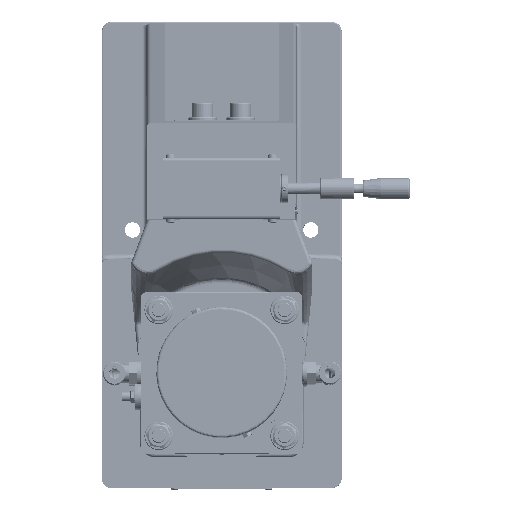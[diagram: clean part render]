
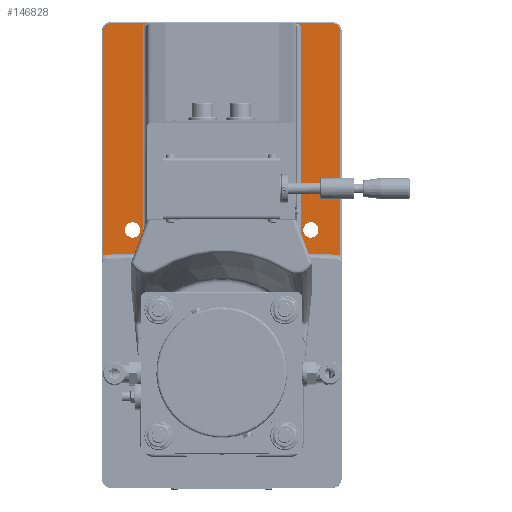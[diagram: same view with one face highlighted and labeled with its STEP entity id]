
A CAD part, top view. The second image highlights one B-rep face of the part: STEP entity #146828.
In plain terms, the highlighted planar face has unit normal (0, 0, 1).
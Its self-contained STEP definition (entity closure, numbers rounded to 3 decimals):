
#9077=LINE('',#214500,#23074);
#9208=LINE('',#215558,#23205);
#9209=LINE('',#215640,#23206);
#9211=LINE('',#215642,#23208);
#9213=LINE('',#215654,#23210);
#9230=LINE('',#215783,#23227);
#9231=LINE('',#215784,#23228);
#9232=LINE('',#215788,#23229);
#9233=LINE('',#215791,#23230);
#23074=VECTOR('',#171412,183.48);
#23205=VECTOR('',#172045,188.744);
#23206=VECTOR('',#172058,31.61);
#23208=VECTOR('',#172060,31.61);
#23210=VECTOR('',#172074,188.744);
#23227=VECTOR('',#172109,133.);
#23228=VECTOR('',#172110,183.48);
#23229=VECTOR('',#172113,96.075);
#23230=VECTOR('',#172116,96.075);
#31847=B_SPLINE_CURVE_WITH_KNOTS('',3,(#214372,#214373,#214374,#214375,
#214376,#214377,#214378,#214379),.UNSPECIFIED.,.F.,.F.,(4,2,2,4),(-0.001,
0.,0.358,0.52),.UNSPECIFIED.);
#31849=B_SPLINE_CURVE_WITH_KNOTS('',3,(#214434,#214435,#214436,#214437,
#214438,#214439,#214440,#214441,#214442,#214443),.UNSPECIFIED.,.F.,.F.,
(4,2,2,2,4),(0.,0.162,0.37,0.581,0.582),
 .UNSPECIFIED.);
#36168=FACE_BOUND('',#48579,.T.);
#36169=FACE_BOUND('',#48580,.T.);
#40415=FACE_OUTER_BOUND('',#48578,.T.);
#48578=EDGE_LOOP('',(#107331,#107332,#107333,#107334,#107335,#107336,#107337,
#107338,#107339,#107340,#107341,#107342,#107343,#107344,#107345,#107346));
#48579=EDGE_LOOP('',(#107347));
#48580=EDGE_LOOP('',(#107348));
#55125=CIRCLE('',#154723,7.);
#55129=CIRCLE('',#154729,7.);
#55132=CIRCLE('',#154735,9.);
#55137=CIRCLE('',#154742,9.);
#55138=CIRCLE('',#154743,9.);
#55139=CIRCLE('',#154744,6.5);
#55140=CIRCLE('',#154745,6.5);
#61801=VERTEX_POINT('',#214370);
#61802=VERTEX_POINT('',#214371);
#61806=VERTEX_POINT('',#214389);
#61808=VERTEX_POINT('',#214433);
#61809=VERTEX_POINT('',#214487);
#61936=VERTEX_POINT('',#215551);
#61939=VERTEX_POINT('',#215556);
#61942=VERTEX_POINT('',#215632);
#61944=VERTEX_POINT('',#215638);
#61946=VERTEX_POINT('',#215646);
#61948=VERTEX_POINT('',#215652);
#61962=VERTEX_POINT('',#215768);
#61967=VERTEX_POINT('',#215782);
#61968=VERTEX_POINT('',#215785);
#61969=VERTEX_POINT('',#215787);
#61970=VERTEX_POINT('',#215789);
#61971=VERTEX_POINT('',#215792);
#61972=VERTEX_POINT('',#215794);
#78228=EDGE_CURVE('',#61801,#61802,#31847,.T.);
#78241=EDGE_CURVE('',#61808,#61806,#31849,.F.);
#78245=EDGE_CURVE('',#61809,#61808,#9077,.T.);
#78505=EDGE_CURVE('',#61939,#61936,#9208,.T.);
#78509=EDGE_CURVE('',#61942,#61939,#55125,.T.);
#78512=EDGE_CURVE('',#61944,#61802,#9209,.T.);
#78514=EDGE_CURVE('',#61806,#61942,#9211,.T.);
#78517=EDGE_CURVE('',#61946,#61944,#55129,.T.);
#78520=EDGE_CURVE('',#61948,#61946,#9213,.T.);
#78537=EDGE_CURVE('',#61936,#61962,#55132,.T.);
#78544=EDGE_CURVE('',#61967,#61809,#9230,.T.);
#78545=EDGE_CURVE('',#61801,#61967,#9231,.T.);
#78546=EDGE_CURVE('',#61968,#61948,#55137,.T.);
#78547=EDGE_CURVE('',#61969,#61968,#9232,.T.);
#78548=EDGE_CURVE('',#61970,#61969,#55138,.T.);
#78549=EDGE_CURVE('',#61962,#61970,#9233,.T.);
#78550=EDGE_CURVE('',#61971,#61971,#55139,.T.);
#78551=EDGE_CURVE('',#61972,#61972,#55140,.T.);
#107331=ORIENTED_EDGE('',*,*,#78505,.F.);
#107332=ORIENTED_EDGE('',*,*,#78509,.F.);
#107333=ORIENTED_EDGE('',*,*,#78514,.F.);
#107334=ORIENTED_EDGE('',*,*,#78241,.F.);
#107335=ORIENTED_EDGE('',*,*,#78245,.F.);
#107336=ORIENTED_EDGE('',*,*,#78544,.F.);
#107337=ORIENTED_EDGE('',*,*,#78545,.F.);
#107338=ORIENTED_EDGE('',*,*,#78228,.T.);
#107339=ORIENTED_EDGE('',*,*,#78512,.F.);
#107340=ORIENTED_EDGE('',*,*,#78517,.F.);
#107341=ORIENTED_EDGE('',*,*,#78520,.F.);
#107342=ORIENTED_EDGE('',*,*,#78546,.F.);
#107343=ORIENTED_EDGE('',*,*,#78547,.F.);
#107344=ORIENTED_EDGE('',*,*,#78548,.F.);
#107345=ORIENTED_EDGE('',*,*,#78549,.F.);
#107346=ORIENTED_EDGE('',*,*,#78537,.F.);
#107347=ORIENTED_EDGE('',*,*,#78550,.T.);
#107348=ORIENTED_EDGE('',*,*,#78551,.T.);
#133151=PLANE('',#154741);
#146828=ADVANCED_FACE('',(#40415,#36168,#36169),#133151,.T.);
#154723=AXIS2_PLACEMENT_3D('',#215634,#172050,#172051);
#154729=AXIS2_PLACEMENT_3D('',#215648,#172066,#172067);
#154735=AXIS2_PLACEMENT_3D('',#215769,#172093,#172094);
#154741=AXIS2_PLACEMENT_3D('',#215781,#172107,#172108);
#154742=AXIS2_PLACEMENT_3D('',#215786,#172111,#172112);
#154743=AXIS2_PLACEMENT_3D('',#215790,#172114,#172115);
#154744=AXIS2_PLACEMENT_3D('',#215793,#172117,#172118);
#154745=AXIS2_PLACEMENT_3D('',#215795,#172119,#172120);
#171412=DIRECTION('',(0.,1.,0.));
#172045=DIRECTION('',(0.,-1.,0.));
#172050=DIRECTION('center_axis',(0.,0.,
-1.));
#172051=DIRECTION('ref_axis',(0.707,0.707,0.));
#172058=DIRECTION('',(1.,0.,0.));
#172060=DIRECTION('',(1.,0.,0.));
#172066=DIRECTION('center_axis',(0.,0.,
-1.));
#172067=DIRECTION('ref_axis',(-0.707,0.707,0.));
#172074=DIRECTION('',(0.,1.,0.));
#172093=DIRECTION('center_axis',(0.,0.,
1.));
#172094=DIRECTION('ref_axis',(0.721,0.693,0.));
#172107=DIRECTION('center_axis',(0.,0.,
1.));
#172108=DIRECTION('ref_axis',(1.,0.,0.));
#172109=DIRECTION('',(1.,0.,0.));
#172110=DIRECTION('',(0.,-1.,0.));
#172111=DIRECTION('center_axis',(0.,0.,
1.));
#172112=DIRECTION('ref_axis',(-0.721,0.693,0.));
#172113=DIRECTION('',(-0.999,-0.04,0.));
#172114=DIRECTION('center_axis',(0.,0.,
1.));
#172115=DIRECTION('ref_axis',(0.,1.,0.));
#172116=DIRECTION('',(-0.999,0.04,0.));
#172117=DIRECTION('center_axis',(0.,0.,
-1.));
#172118=DIRECTION('ref_axis',(1.,0.,0.));
#172119=DIRECTION('center_axis',(0.,0.,
-1.));
#172120=DIRECTION('ref_axis',(1.,0.,0.));
#214370=CARTESIAN_POINT('',(-66.5,195.98,47.));
#214371=CARTESIAN_POINT('',(-61.39,198.5,47.));
#214372=CARTESIAN_POINT('Ctrl Pts',(-66.5,195.98,47.));
#214373=CARTESIAN_POINT('Ctrl Pts',(-66.497,195.982,
47.));
#214374=CARTESIAN_POINT('Ctrl Pts',(-66.495,195.985,
47.));
#214375=CARTESIAN_POINT('Ctrl Pts',(-65.615,196.799,
47.));
#214376=CARTESIAN_POINT('Ctrl Pts',(-64.539,197.685,
47.));
#214377=CARTESIAN_POINT('Ctrl Pts',(-62.635,198.376,
47.));
#214378=CARTESIAN_POINT('Ctrl Pts',(-62.017,198.5,47.));
#214379=CARTESIAN_POINT('Ctrl Pts',(-61.39,198.5,47.));
#214389=CARTESIAN_POINT('',(61.39,198.5,47.));
#214433=CARTESIAN_POINT('',(66.5,195.98,47.));
#214434=CARTESIAN_POINT('Ctrl Pts',(61.39,198.5,47.));
#214435=CARTESIAN_POINT('Ctrl Pts',(61.931,198.5,47.));
#214436=CARTESIAN_POINT('Ctrl Pts',(62.467,198.408,47.));
#214437=CARTESIAN_POINT('Ctrl Pts',(63.645,198.035,47.));
#214438=CARTESIAN_POINT('Ctrl Pts',(64.262,197.715,47.));
#214439=CARTESIAN_POINT('Ctrl Pts',(65.431,196.93,47.));
#214440=CARTESIAN_POINT('Ctrl Pts',(65.965,196.475,47.));
#214441=CARTESIAN_POINT('Ctrl Pts',(66.495,195.985,47.));
#214442=CARTESIAN_POINT('Ctrl Pts',(66.497,195.982,47.));
#214443=CARTESIAN_POINT('Ctrl Pts',(66.5,195.98,47.));
#214487=CARTESIAN_POINT('',(66.5,12.5,47.));
#214500=CARTESIAN_POINT('',(66.5,23.,47.));
#215551=CARTESIAN_POINT('',(100.,2.756,47.));
#215556=CARTESIAN_POINT('',(100.,191.5,47.));
#215558=CARTESIAN_POINT('',(100.,101.5,47.));
#215632=CARTESIAN_POINT('',(93.,198.5,47.));
#215634=CARTESIAN_POINT('Origin',(93.,191.5,47.));
#215638=CARTESIAN_POINT('',(-93.,198.5,47.));
#215640=CARTESIAN_POINT('',(31.5,198.5,47.));
#215642=CARTESIAN_POINT('',(31.5,198.5,47.));
#215646=CARTESIAN_POINT('',(-100.,191.5,47.));
#215648=CARTESIAN_POINT('Origin',(-93.,191.5,47.));
#215652=CARTESIAN_POINT('',(-100.,2.756,47.));
#215654=CARTESIAN_POINT('',(-100.,-94.5,47.));
#215768=CARTESIAN_POINT('',(96.356,3.687,47.));
#215769=CARTESIAN_POINT('Origin',(96.,-5.306,47.));
#215781=CARTESIAN_POINT('Origin',(0.,3.5,
47.));
#215782=CARTESIAN_POINT('',(-66.5,12.5,47.));
#215783=CARTESIAN_POINT('',(-31.5,12.5,47.));
#215784=CARTESIAN_POINT('',(-66.5,101.,47.));
#215785=CARTESIAN_POINT('',(-96.356,3.687,47.));
#215786=CARTESIAN_POINT('Origin',(-96.,-5.306,47.));
#215787=CARTESIAN_POINT('',(-0.356,7.489,47.));
#215788=CARTESIAN_POINT('',(-50.658,5.497,47.));
#215789=CARTESIAN_POINT('',(0.356,7.489,47.));
#215790=CARTESIAN_POINT('Origin',(0.,-1.504,
47.));
#215791=CARTESIAN_POINT('',(0.158,7.497,47.));
#215792=CARTESIAN_POINT('',(-68.5,24.5,47.));
#215793=CARTESIAN_POINT('Origin',(-75.,24.5,47.));
#215794=CARTESIAN_POINT('',(81.5,24.5,47.));
#215795=CARTESIAN_POINT('Origin',(75.,24.5,47.));
